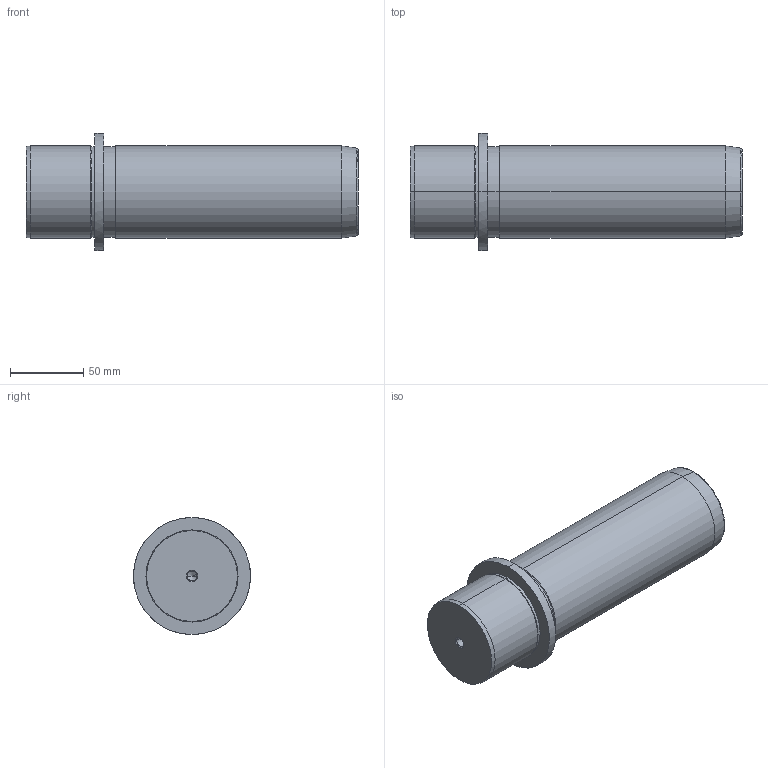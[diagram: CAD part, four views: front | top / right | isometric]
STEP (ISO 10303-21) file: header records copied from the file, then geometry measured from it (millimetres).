
FILE_DESCRIPTION(('CATIA V5 STEP Exchange'),'2;1');
FILE_NAME('C:\Users\Utente\Desktop\IO LAVORO\3D X SITO CF\X SITO\718\718-63x180.stp','2021-01-02T07:46:29+00:00',('none'),('none'),'CATIA Version 5 Release 20 GA (IN-10)','CATIA V5 STEP AP203','none');
FILE_SCHEMA(('CONFIG_CONTROL_DESIGN'));
Length unit declared in the file: millimetre
Products named in the file (1): 718-63x180
Bounding box: 227 x 80 x 80 mm (x, y, z)
Volume: 714340 mm3; surface area: 56041.5 mm2
Topology: 1 solids, 1 shells, 36 faces, 100 edges, 66 vertices
Faces by surface type: cone 16, cylinder 14, plane 4, torus 2
Entity records: 1291 total; most frequent: CARTESIAN_POINT 362, ORIENTED_EDGE 192, DIRECTION 157, EDGE_CURVE 96, AXIS2_PLACEMENT_3D 92, VERTEX_POINT 66, CIRCLE 55, EDGE_LOOP 40
